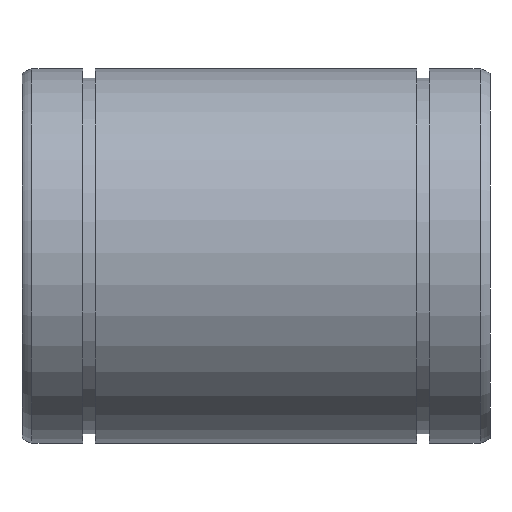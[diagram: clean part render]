
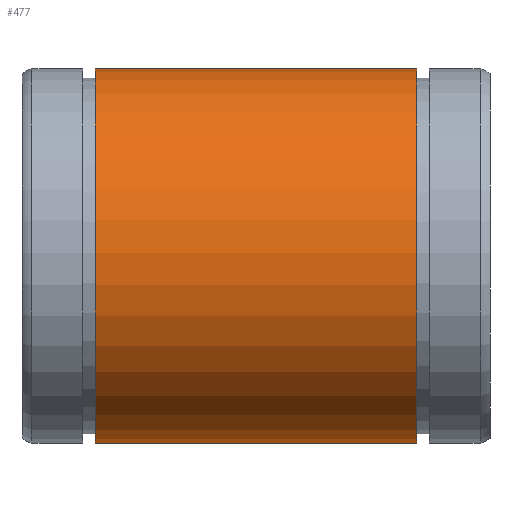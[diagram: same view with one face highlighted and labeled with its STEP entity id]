
A CAD part, front view. The second image highlights one B-rep face of the part: STEP entity #477.
In plain terms, the highlighted cylindrical face has radius 40 mm (diameter 80 mm), a partial arc.
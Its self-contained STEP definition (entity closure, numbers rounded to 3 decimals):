
#90=CARTESIAN_POINT('',(15.6,1.5,-39.972));
#91=VERTEX_POINT('',#90);
#98=CARTESIAN_POINT('',(84.4,1.5,-39.972));
#99=VERTEX_POINT('',#98);
#100=CARTESIAN_POINT('',(84.4,1.5,-39.972));
#101=DIRECTION('',(-1.0,0.0,0.0));
#102=VECTOR('',#101,68.8);
#103=LINE('',#100,#102);
#104=EDGE_CURVE('',#99,#91,#103,.T.);
#333=CARTESIAN_POINT('',(84.4,-1.5,-39.972));
#334=VERTEX_POINT('',#333);
#341=CARTESIAN_POINT('',(15.6,-1.5,-39.972));
#342=VERTEX_POINT('',#341);
#343=CARTESIAN_POINT('',(15.6,-1.5,-39.972));
#344=DIRECTION('',(1.0,0.0,0.0));
#345=VECTOR('',#344,68.8);
#346=LINE('',#343,#345);
#347=EDGE_CURVE('',#342,#334,#346,.T.);
#448=CARTESIAN_POINT('',(15.6,0.0,0.));
#449=DIRECTION('',(-1.0,0.0,0.0));
#450=DIRECTION('',(0.0,0.0,1.0));
#451=AXIS2_PLACEMENT_3D('',#448,#449,#450);
#452=CIRCLE('',#451,40.);
#453=EDGE_CURVE('',#342,#91,#452,.T.);
#460=CARTESIAN_POINT('',(50.,0.0,0.));
#461=DIRECTION('',(-1.0,0.0,0.));
#462=DIRECTION('',(0.0,0.0,1.0));
#463=AXIS2_PLACEMENT_3D('',#460,#461,#462);
#464=CYLINDRICAL_SURFACE('',#463,40.);
#465=ORIENTED_EDGE('',*,*,#347,.T.);
#466=CARTESIAN_POINT('',(84.4,0.0,0.));
#467=DIRECTION('',(-1.0,0.0,0.0));
#468=DIRECTION('',(0.0,0.0,1.0));
#469=AXIS2_PLACEMENT_3D('',#466,#467,#468);
#470=CIRCLE('',#469,40.);
#471=EDGE_CURVE('',#334,#99,#470,.T.);
#472=ORIENTED_EDGE('',*,*,#471,.T.);
#473=ORIENTED_EDGE('',*,*,#104,.T.);
#474=ORIENTED_EDGE('',*,*,#453,.F.);
#475=EDGE_LOOP('',(#465,#472,#473,#474));
#476=FACE_OUTER_BOUND('',#475,.T.);
#477=ADVANCED_FACE('',(#476),#464,.T.);
